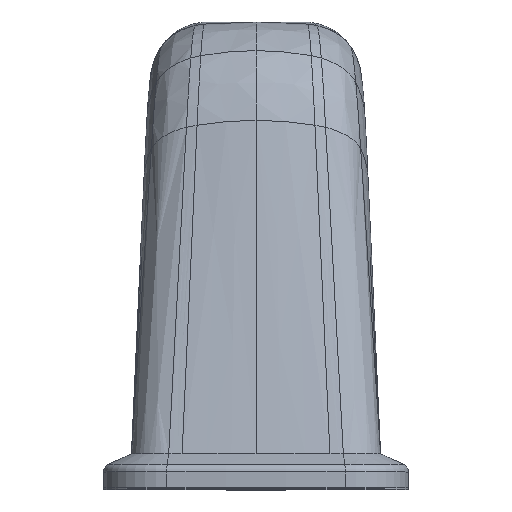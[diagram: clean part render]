
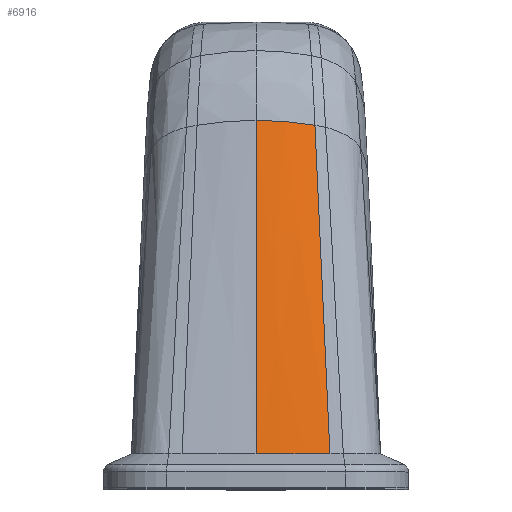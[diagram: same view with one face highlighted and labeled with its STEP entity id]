
A CAD part, top view. The second image highlights one B-rep face of the part: STEP entity #6916.
In plain terms, the highlighted free-form (B-spline) face has degree [3, 3] with [4, 4] control points.
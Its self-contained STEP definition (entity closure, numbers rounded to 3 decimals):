
#1608=CARTESIAN_POINT('',(24.954,42.804,-12.942));
#1619=CARTESIAN_POINT('',(18.,43.374,-12.39));
#1782=CARTESIAN_POINT('',(18.,4.,-162.5));
#1783=DIRECTION('',(0.,1.,0.));
#1784=DIRECTION('',(0.,0.,1.));
#1785=AXIS2_PLACEMENT_3D('',#1782,#1783,#1784);
#1806=CARTESIAN_POINT('',(18.,43.374,-12.39));
#1807=CARTESIAN_POINT('',(20.319,43.374,-12.39));
#1808=CARTESIAN_POINT('',(22.637,43.158,-12.595));
#1809=CARTESIAN_POINT('',(24.954,42.804,-12.942));
#1811=DIRECTION('',(-0.044,0.971,-0.235));
#1812=VECTOR('',#1811,39.966);
#1813=CARTESIAN_POINT('',(26.722,4.,-3.539));
#1814=LINE('',#1813,#1812);
#1815=DIRECTION('',(0.,0.974,-0.225));
#1816=VECTOR('',#1815,40.41);
#1817=CARTESIAN_POINT('',(18.,4.,-3.3));
#1818=LINE('',#1817,#1816);
#2706=VERTEX_POINT('',#1619);
#2709=VERTEX_POINT('',#1608);
#2752=CARTESIAN_POINT('',(18.,4.,-3.3));
#2753=CARTESIAN_POINT('',(26.722,4.,-3.539));
#2754=VERTEX_POINT('',#2752);
#2755=VERTEX_POINT('',#2753);
#6892=CARTESIAN_POINT('',(17.738,3.213,-3.118));
#6893=CARTESIAN_POINT('',(20.789,3.212,-3.114));
#6894=CARTESIAN_POINT('',(23.84,3.217,-3.193));
#6895=CARTESIAN_POINT('',(26.886,3.224,-3.358));
#6896=CARTESIAN_POINT('',(17.757,16.862,-6.27));
#6897=CARTESIAN_POINT('',(20.594,16.866,-6.262));
#6898=CARTESIAN_POINT('',(23.431,16.793,-6.387));
#6899=CARTESIAN_POINT('',(26.264,16.671,-6.62));
#6900=CARTESIAN_POINT('',(17.775,30.512,-9.421));
#6901=CARTESIAN_POINT('',(20.398,30.521,-9.411));
#6902=CARTESIAN_POINT('',(23.022,30.369,-9.581));
#6903=CARTESIAN_POINT('',(25.643,30.117,-9.883));
#6904=CARTESIAN_POINT('',(17.793,44.161,-12.573));
#6905=CARTESIAN_POINT('',(20.203,44.175,-12.56));
#6906=CARTESIAN_POINT('',(22.613,43.946,-12.775));
#6907=CARTESIAN_POINT('',(25.021,43.564,-13.145));
#6908=B_SPLINE_SURFACE_WITH_KNOTS('',3,3,((#6892,#6893,#6894,#6895),(#6896,
#6897,#6898,#6899),(#6900,#6901,#6902,#6903),(#6904,#6905,#6906,#6907)),
.UNSPECIFIED.,.F.,.F.,.F.,(4,4),(4,4),(-0.012,0.607),(
-0.003,0.091),.UNSPECIFIED.);
#6909=ORIENTED_EDGE('',*,*,#6876,.F.);
#6911=ORIENTED_EDGE('',*,*,#6910,.T.);
#6912=ORIENTED_EDGE('',*,*,#6395,.T.);
#6913=ORIENTED_EDGE('',*,*,#6863,.F.);
#6914=EDGE_LOOP('',(#6909,#6911,#6912,#6913));
#6915=FACE_OUTER_BOUND('',#6914,.F.);
#6916=ADVANCED_FACE('',(#6915),#6908,.F.);
#1786=CIRCLE('',#1785,159.2);
#1810=B_SPLINE_CURVE_WITH_KNOTS('',3,(#1806,#1807,#1808,#1809),.UNSPECIFIED.,
.F.,.F.,(4,4),(0.,1.),.UNSPECIFIED.);
#6395=EDGE_CURVE('',#2706,#2709,#1810,.T.);
#6863=EDGE_CURVE('',#2755,#2709,#1814,.T.);
#6876=EDGE_CURVE('',#2754,#2755,#1786,.T.);
#6910=EDGE_CURVE('',#2754,#2706,#1818,.T.);
